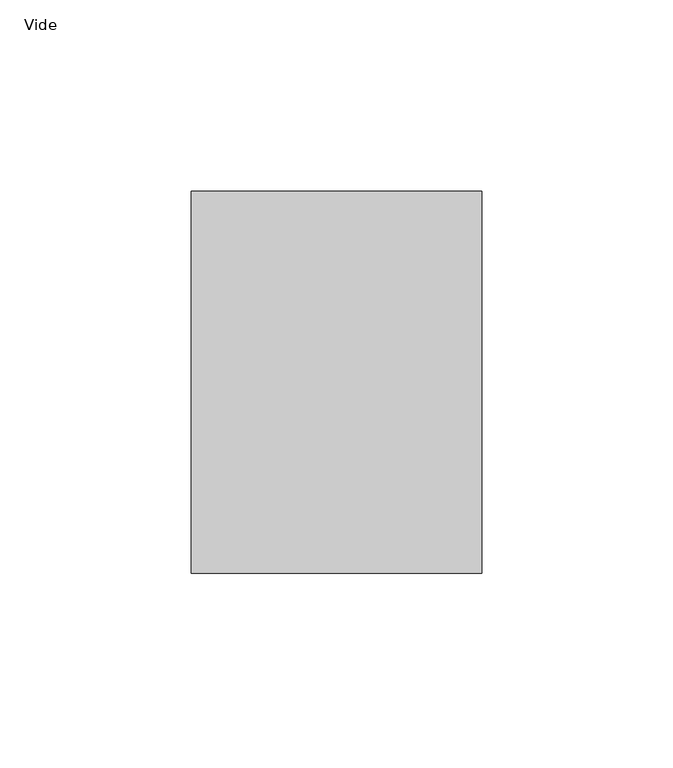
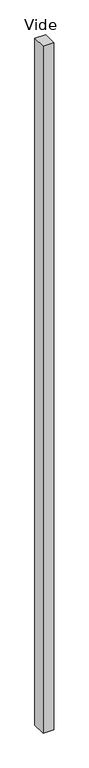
"""IFC4 building model written with IfcOpenShell, lengths in millimetres: plate geometry, Panneau système vide : Vide."""

from ifc_helpers import new_model, si_unit, origin, origin_with_axes, place, context, project, spatial, polyline, outline, extrude, source, transform, mapped, element, save


def vide_57d3df76(model_context):
    return source(origin(), model_context, "Body", "SweptSolid", [
        extrude(outline(polyline([(38.0, 50.0), (-38.0, 50.0), (-38.0, 150.0), (38.0, 150.0), (38.0, 50.0)])), origin_with_axes(), (0.0, 0.0, 1.0), 5176.3809021),
    ])


if __name__ == "__main__":
    model = new_model("IFC4")
    model_context = context("Model", 3, world=origin())
    ifc_project = project(units=[si_unit("LENGTHUNIT", "METRE", prefix="MILLI")], contexts=[model_context])
    site = spatial("IfcSite", under=ifc_project)
    building = spatial("IfcBuilding", under=site)
    placement = place(None, origin())
    vide_shape = vide_57d3df76(model_context)
    element("IfcPlate", 1, ObjectType="Panneau système vide : Vide", at=placement, inside=building, context=model_context, shape_type="MappedRepresentation", body=[
        mapped(vide_shape, transform((0.0, 0.0, 0.0), x_axis=(1.0, 0.0, 0.0), y_axis=(0.0, 1.0, 0.0), z_axis=(0.0, 0.0, 1.0))),
    ])
    save(model, "model.ifc")
